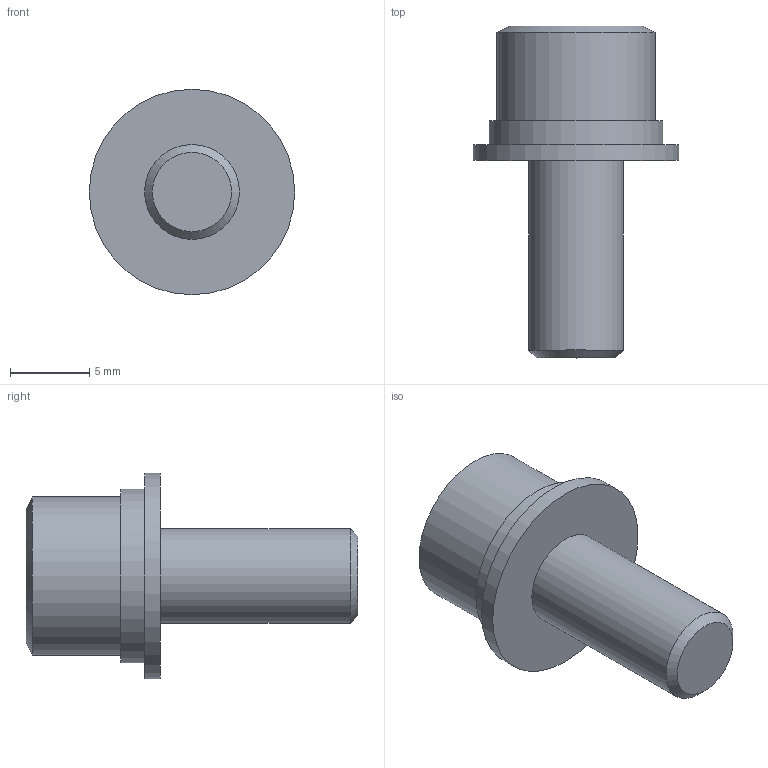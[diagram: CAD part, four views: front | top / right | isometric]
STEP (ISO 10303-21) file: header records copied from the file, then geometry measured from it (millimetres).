
FILE_DESCRIPTION((''),'2;1');
FILE_NAME('F:\CSW-06.stp','2013-12-02T15:34:19',('AMS8'),(''),'Autodesk Inventor 2008','Autodesk Inventor 2008','');
FILE_SCHEMA(('AUTOMOTIVE_DESIGN { 1 0 10303 214 1 1 1 1 }'));
Length unit declared in the file: millimetre
Products named in the file (1): CSW-06
Bounding box: 13 x 21 x 13 mm (x, y, z)
Surface area: 1094.9 mm2 (no closed solid volume)
Topology: 0 solids, 3 shells, 15 faces, 30 edges, 14 vertices
Faces by surface type: plane 7, cylinder 6, cone 2
Full cylindrical faces by diameter (mm): 6 x3, 10 x1, 11 x1, 13 x1
Entity records: 382 total; most frequent: DIRECTION 70, CARTESIAN_POINT 54, ORIENTED_EDGE 38, AXIS2_PLACEMENT_3D 30, EDGE_CURVE 24, EDGE_LOOP 23, FACE_OUTER_BOUND 15, ADVANCED_FACE 15
